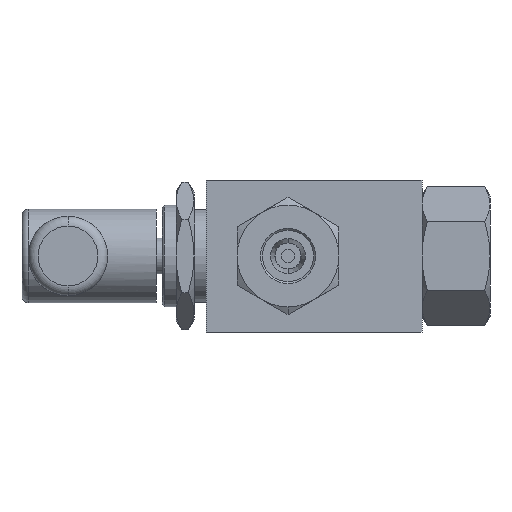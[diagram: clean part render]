
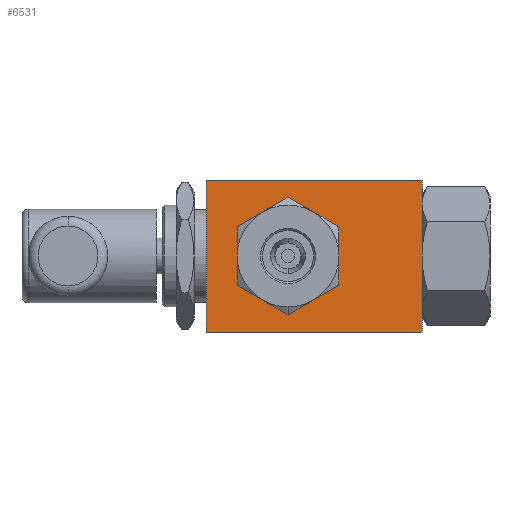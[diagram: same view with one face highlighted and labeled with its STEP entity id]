
A CAD part, left-side view. The second image highlights one B-rep face of the part: STEP entity #6531.
In plain terms, the highlighted planar face has unit normal (-1, 0, 0).
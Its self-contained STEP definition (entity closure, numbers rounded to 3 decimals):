
#38 = LINE ( 'NONE', #1585, #1743 ) ;
#93 = VECTOR ( 'NONE', #6618, 1000. ) ;
#95 = CIRCLE ( 'NONE', #2733, 11. ) ;
#213 = DIRECTION ( 'NONE',  ( 0., 0., -1. ) ) ;
#302 = EDGE_CURVE ( 'NONE', #4347, #1716, #3646, .T. ) ;
#304 = EDGE_CURVE ( 'NONE', #1111, #4636, #2419, .T. ) ;
#427 = AXIS2_PLACEMENT_3D ( 'NONE', #4857, #5988, #3273 ) ;
#432 = EDGE_CURVE ( 'NONE', #5425, #4347, #95, .T. ) ;
#447 = ORIENTED_EDGE ( 'NONE', *, *, #6302, .T. ) ;
#508 = DIRECTION ( 'NONE',  ( 0., 0., -1. ) ) ;
#607 = CIRCLE ( 'NONE', #5257, 11. ) ;
#645 = EDGE_CURVE ( 'NONE', #6804, #3442, #38, .T. ) ;
#718 = EDGE_CURVE ( 'NONE', #1716, #3607, #5647, .T. ) ;
#730 = DIRECTION ( 'NONE',  ( 1., 0., 0. ) ) ;
#826 = DIRECTION ( 'NONE',  ( 0., -1., 0. ) ) ;
#851 = DIRECTION ( 'NONE',  ( 1., 0., 0. ) ) ;
#869 = ORIENTED_EDGE ( 'NONE', *, *, #3430, .T. ) ;
#947 = CARTESIAN_POINT ( 'NONE',  ( -33.25, -27., 19. ) ) ;
#997 = DIRECTION ( 'NONE',  ( 0., 0., -1. ) ) ;
#1111 = VERTEX_POINT ( 'NONE', #4382 ) ;
#1120 = EDGE_LOOP ( 'NONE', ( #6358, #2812, #4752, #2595, #6455, #5812, #447 ) ) ;
#1180 = CARTESIAN_POINT ( 'NONE',  ( -33.25, -27., 19. ) ) ;
#1204 = AXIS2_PLACEMENT_3D ( 'NONE', #1314, #6628, #3286 ) ;
#1214 = DIRECTION ( 'NONE',  ( 0., 0., -1. ) ) ;
#1314 = CARTESIAN_POINT ( 'NONE',  ( -33.25, 6.5, 0. ) ) ;
#1449 = DIRECTION ( 'NONE',  ( 1., 0., 0. ) ) ;
#1514 = DIRECTION ( 'NONE',  ( 0., 0., -1. ) ) ;
#1524 = EDGE_CURVE ( 'NONE', #1925, #6804, #6669, .T. ) ;
#1585 = CARTESIAN_POINT ( 'NONE',  ( -33.25, -27., 19. ) ) ;
#1716 = VERTEX_POINT ( 'NONE', #2468 ) ;
#1743 = VECTOR ( 'NONE', #997, 1000. ) ;
#1925 = VERTEX_POINT ( 'NONE', #3890 ) ;
#2161 = DIRECTION ( 'NONE',  ( 1., 0., 0. ) ) ;
#2164 = EDGE_CURVE ( 'NONE', #4636, #4990, #4784, .T. ) ;
#2275 = VECTOR ( 'NONE', #826, 1000. ) ;
#2358 = CIRCLE ( 'NONE', #6170, 11. ) ;
#2359 = EDGE_CURVE ( 'NONE', #1925, #3090, #5010, .T. ) ;
#2419 = CIRCLE ( 'NONE', #4532, 11. ) ;
#2420 = DIRECTION ( 'NONE',  ( 1., 0., 0. ) ) ;
#2468 = CARTESIAN_POINT ( 'NONE',  ( -33.25, 17.5, 0. ) ) ;
#2554 = VECTOR ( 'NONE', #3288, 1000. ) ;
#2595 = ORIENTED_EDGE ( 'NONE', *, *, #5746, .T. ) ;
#2733 = AXIS2_PLACEMENT_3D ( 'NONE', #5498, #730, #2836 ) ;
#2812 = ORIENTED_EDGE ( 'NONE', *, *, #302, .T. ) ;
#2836 = DIRECTION ( 'NONE',  ( 0., 0., -1. ) ) ;
#2888 = CARTESIAN_POINT ( 'NONE',  ( -33.25, 27., 19. ) ) ;
#2952 = CARTESIAN_POINT ( 'NONE',  ( -33.25, 1., -9.526 ) ) ;
#3090 = VERTEX_POINT ( 'NONE', #4095 ) ;
#3273 = DIRECTION ( 'NONE',  ( 0., 0., -1. ) ) ;
#3286 = DIRECTION ( 'NONE',  ( 0., 0., -1. ) ) ;
#3288 = DIRECTION ( 'NONE',  ( 0., -1., 0. ) ) ;
#3430 = EDGE_CURVE ( 'NONE', #3090, #3442, #3450, .T. ) ;
#3442 = VERTEX_POINT ( 'NONE', #6166 ) ;
#3450 = LINE ( 'NONE', #5593, #2275 ) ;
#3607 = VERTEX_POINT ( 'NONE', #5790 ) ;
#3646 = CIRCLE ( 'NONE', #1204, 11. ) ;
#3890 = CARTESIAN_POINT ( 'NONE',  ( -33.25, 27., 19. ) ) ;
#4095 = CARTESIAN_POINT ( 'NONE',  ( -33.25, 27., -19. ) ) ;
#4222 = AXIS2_PLACEMENT_3D ( 'NONE', #4504, #2420, #213 ) ;
#4347 = VERTEX_POINT ( 'NONE', #6210 ) ;
#4361 = AXIS2_PLACEMENT_3D ( 'NONE', #947, #851, #4648 ) ;
#4382 = CARTESIAN_POINT ( 'NONE',  ( -33.25, 6.5, 11. ) ) ;
#4504 = CARTESIAN_POINT ( 'NONE',  ( -33.25, 6.5, 0. ) ) ;
#4532 = AXIS2_PLACEMENT_3D ( 'NONE', #5995, #6563, #1214 ) ;
#4609 = CARTESIAN_POINT ( 'NONE',  ( -33.25, -4.5, 0. ) ) ;
#4636 = VERTEX_POINT ( 'NONE', #6502 ) ;
#4648 = DIRECTION ( 'NONE',  ( 0., 0., -1. ) ) ;
#4752 = ORIENTED_EDGE ( 'NONE', *, *, #718, .T. ) ;
#4784 = CIRCLE ( 'NONE', #4222, 11. ) ;
#4857 = CARTESIAN_POINT ( 'NONE',  ( -33.25, 6.5, 0. ) ) ;
#4990 = VERTEX_POINT ( 'NONE', #4609 ) ;
#5010 = LINE ( 'NONE', #2888, #93 ) ;
#5257 = AXIS2_PLACEMENT_3D ( 'NONE', #5747, #1449, #1514 ) ;
#5425 = VERTEX_POINT ( 'NONE', #2952 ) ;
#5449 = ORIENTED_EDGE ( 'NONE', *, *, #2359, .T. ) ;
#5498 = CARTESIAN_POINT ( 'NONE',  ( -33.25, 6.5, 0. ) ) ;
#5593 = CARTESIAN_POINT ( 'NONE',  ( -33.25, -27., -19. ) ) ;
#5647 = CIRCLE ( 'NONE', #427, 11. ) ;
#5734 = FACE_OUTER_BOUND ( 'NONE', #5873, .T. ) ;
#5746 = EDGE_CURVE ( 'NONE', #3607, #1111, #607, .T. ) ;
#5747 = CARTESIAN_POINT ( 'NONE',  ( -33.25, 6.5, 0. ) ) ;
#5773 = FACE_BOUND ( 'NONE', #1120, .T. ) ;
#5790 = CARTESIAN_POINT ( 'NONE',  ( -33.25, 12., 9.526 ) ) ;
#5812 = ORIENTED_EDGE ( 'NONE', *, *, #2164, .T. ) ;
#5846 = CARTESIAN_POINT ( 'NONE',  ( -33.25, 6.5, 0. ) ) ;
#5873 = EDGE_LOOP ( 'NONE', ( #869, #6390, #6503, #5449 ) ) ;
#5988 = DIRECTION ( 'NONE',  ( 1., 0., 0. ) ) ;
#5995 = CARTESIAN_POINT ( 'NONE',  ( -33.25, 6.5, 0. ) ) ;
#6045 = CARTESIAN_POINT ( 'NONE',  ( -33.25, -27., 19. ) ) ;
#6166 = CARTESIAN_POINT ( 'NONE',  ( -33.25, -27., -19. ) ) ;
#6170 = AXIS2_PLACEMENT_3D ( 'NONE', #5846, #2161, #508 ) ;
#6210 = CARTESIAN_POINT ( 'NONE',  ( -33.25, 12., -9.526 ) ) ;
#6302 = EDGE_CURVE ( 'NONE', #4990, #5425, #2358, .T. ) ;
#6358 = ORIENTED_EDGE ( 'NONE', *, *, #432, .T. ) ;
#6390 = ORIENTED_EDGE ( 'NONE', *, *, #645, .F. ) ;
#6455 = ORIENTED_EDGE ( 'NONE', *, *, #304, .T. ) ;
#6502 = CARTESIAN_POINT ( 'NONE',  ( -33.25, 1., 9.526 ) ) ;
#6503 = ORIENTED_EDGE ( 'NONE', *, *, #1524, .F. ) ;
#6531 = ADVANCED_FACE ( 'NONE', ( #5734, #5773 ), #6722, .F. ) ;
#6563 = DIRECTION ( 'NONE',  ( 1., 0., 0. ) ) ;
#6618 = DIRECTION ( 'NONE',  ( 0., 0., -1. ) ) ;
#6628 = DIRECTION ( 'NONE',  ( 1., 0., 0. ) ) ;
#6669 = LINE ( 'NONE', #1180, #2554 ) ;
#6722 = PLANE ( 'NONE',  #4361 ) ;
#6804 = VERTEX_POINT ( 'NONE', #6045 ) ;
